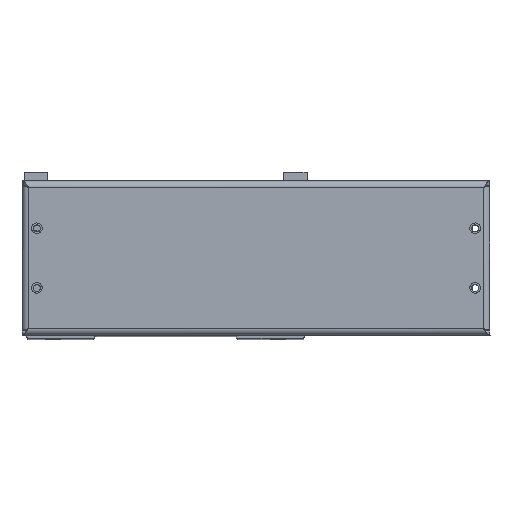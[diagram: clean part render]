
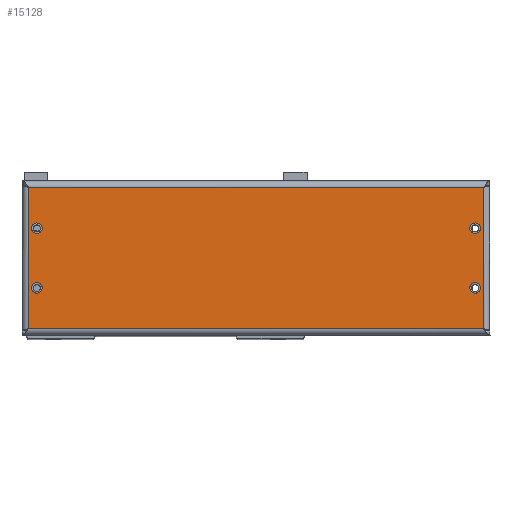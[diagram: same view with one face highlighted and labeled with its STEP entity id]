
A CAD part, top view. The second image highlights one B-rep face of the part: STEP entity #15128.
In plain terms, the highlighted planar face has unit normal (0, 0, 1) as drawn and (0, 0, -1) by its records, which use the part's own axes.
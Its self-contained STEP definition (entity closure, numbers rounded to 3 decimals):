
#118 = EDGE_CURVE ( 'NONE', #9725, #5809, #12663, .T. ) ;
#218 = VERTEX_POINT ( 'NONE', #23179 ) ;
#355 = VERTEX_POINT ( 'NONE', #27364 ) ;
#374 = EDGE_CURVE ( 'NONE', #5809, #9725, #19638, .T. ) ;
#459 = CARTESIAN_POINT ( 'NONE',  ( 2817.591, 251.134, -52. ) ) ;
#593 = CIRCLE ( 'NONE', #2744, 2.5 ) ;
#697 = EDGE_LOOP ( 'NONE', ( #7285, #3415, #16322, #4812 ) ) ;
#796 = CARTESIAN_POINT ( 'NONE',  ( 2817.591, 279.134, -52. ) ) ;
#974 = EDGE_CURVE ( 'NONE', #355, #3791, #25250, .T. ) ;
#1818 = CARTESIAN_POINT ( 'NONE',  ( 2920.591, 265.134, -52. ) ) ;
#1877 = CARTESIAN_POINT ( 'NONE',  ( 3023.591, 251.134, -52. ) ) ;
#2186 = CARTESIAN_POINT ( 'NONE',  ( 2817.591, 276.634, -52. ) ) ;
#2227 = CARTESIAN_POINT ( 'NONE',  ( 3028.237, 231.884, -52. ) ) ;
#2744 = AXIS2_PLACEMENT_3D ( 'NONE', #29883, #11712, #19134 ) ;
#2917 = ORIENTED_EDGE ( 'NONE', *, *, #374, .F. ) ;
#3007 = CARTESIAN_POINT ( 'NONE',  ( 2813.591, 231.884, -52. ) ) ;
#3415 = ORIENTED_EDGE ( 'NONE', *, *, #21630, .T. ) ;
#3479 = DIRECTION ( 'NONE',  ( 0., 0., -1. ) ) ;
#3515 = VERTEX_POINT ( 'NONE', #23266 ) ;
#3547 = EDGE_LOOP ( 'NONE', ( #7815, #10035 ) ) ;
#3773 = CIRCLE ( 'NONE', #19288, 2.5 ) ;
#3791 = VERTEX_POINT ( 'NONE', #3007 ) ;
#3862 = CARTESIAN_POINT ( 'NONE',  ( 2813.591, 298.384, -52. ) ) ;
#4150 = DIRECTION ( 'NONE',  ( 0., 0., -1. ) ) ;
#4812 = ORIENTED_EDGE ( 'NONE', *, *, #32247, .T. ) ;
#5129 = VERTEX_POINT ( 'NONE', #16174 ) ;
#5545 = DIRECTION ( 'NONE',  ( 0., 0., -1. ) ) ;
#5809 = VERTEX_POINT ( 'NONE', #22411 ) ;
#6056 = CARTESIAN_POINT ( 'NONE',  ( 3023.591, 276.634, -52. ) ) ;
#7285 = ORIENTED_EDGE ( 'NONE', *, *, #14681, .T. ) ;
#7303 = EDGE_CURVE ( 'NONE', #5129, #21067, #23047, .T. ) ;
#7627 = VERTEX_POINT ( 'NONE', #3862 ) ;
#7815 = ORIENTED_EDGE ( 'NONE', *, *, #33209, .F. ) ;
#8118 = CARTESIAN_POINT ( 'NONE',  ( 3023.591, 253.634, -52. ) ) ;
#8445 = EDGE_CURVE ( 'NONE', #21067, #5129, #3773, .T. ) ;
#8754 = VERTEX_POINT ( 'NONE', #2186 ) ;
#8773 = VERTEX_POINT ( 'NONE', #25031 ) ;
#9117 = AXIS2_PLACEMENT_3D ( 'NONE', #1818, #22166, #22817 ) ;
#9396 = AXIS2_PLACEMENT_3D ( 'NONE', #12029, #4150, #14412 ) ;
#9614 = VECTOR ( 'NONE', #16478, 1000. ) ;
#9725 = VERTEX_POINT ( 'NONE', #6056 ) ;
#10009 = FACE_BOUND ( 'NONE', #25976, .T. ) ;
#10035 = ORIENTED_EDGE ( 'NONE', *, *, #30195, .F. ) ;
#10105 = CIRCLE ( 'NONE', #12770, 2.5 ) ;
#10435 = CARTESIAN_POINT ( 'NONE',  ( 2817.591, 279.134, -52. ) ) ;
#10701 = DIRECTION ( 'NONE',  ( 0., 0., -1. ) ) ;
#10760 = CARTESIAN_POINT ( 'NONE',  ( 2817.591, 248.634, -52. ) ) ;
#10877 = CARTESIAN_POINT ( 'NONE',  ( 3027.591, 299.031, -52. ) ) ;
#11712 = DIRECTION ( 'NONE',  ( 0., 0., -1. ) ) ;
#12029 = CARTESIAN_POINT ( 'NONE',  ( 3023.591, 279.134, -52. ) ) ;
#12469 = DIRECTION ( 'NONE',  ( -1., 0., 0. ) ) ;
#12547 = FACE_BOUND ( 'NONE', #18029, .T. ) ;
#12663 = CIRCLE ( 'NONE', #31475, 2.5 ) ;
#12770 = AXIS2_PLACEMENT_3D ( 'NONE', #10435, #28454, #15830 ) ;
#13099 = CARTESIAN_POINT ( 'NONE',  ( 3023.591, 251.134, -52. ) ) ;
#13269 = DIRECTION ( 'NONE',  ( 0., -1., 0. ) ) ;
#14412 = DIRECTION ( 'NONE',  ( 0., -1., 0. ) ) ;
#14681 = EDGE_CURVE ( 'NONE', #7627, #8773, #31950, .T. ) ;
#14830 = CIRCLE ( 'NONE', #30418, 2.5 ) ;
#15113 = DIRECTION ( 'NONE',  ( 0., -1., 0. ) ) ;
#15128 = ADVANCED_FACE ( 'NONE', ( #18391, #10009, #29889, #12547, #19645 ), #20310, .T. ) ;
#15830 = DIRECTION ( 'NONE',  ( 0., -1., 0. ) ) ;
#16174 = CARTESIAN_POINT ( 'NONE',  ( 3023.591, 248.634, -52. ) ) ;
#16322 = ORIENTED_EDGE ( 'NONE', *, *, #974, .T. ) ;
#16478 = DIRECTION ( 'NONE',  ( 1., 0., 0. ) ) ;
#16560 = VECTOR ( 'NONE', #17879, 1000. ) ;
#17355 = DIRECTION ( 'NONE',  ( 0., 0., -1. ) ) ;
#17429 = ORIENTED_EDGE ( 'NONE', *, *, #8445, .F. ) ;
#17879 = DIRECTION ( 'NONE',  ( 0., 1., 0. ) ) ;
#18029 = EDGE_LOOP ( 'NONE', ( #26242, #17429 ) ) ;
#18040 = EDGE_CURVE ( 'NONE', #218, #24884, #24437, .T. ) ;
#18391 = FACE_BOUND ( 'NONE', #3547, .T. ) ;
#18473 = ORIENTED_EDGE ( 'NONE', *, *, #118, .F. ) ;
#19075 = DIRECTION ( 'NONE',  ( 0., -1., 0. ) ) ;
#19134 = DIRECTION ( 'NONE',  ( 0., -1., 0. ) ) ;
#19288 = AXIS2_PLACEMENT_3D ( 'NONE', #13099, #5545, #13269 ) ;
#19638 = CIRCLE ( 'NONE', #9396, 2.5 ) ;
#19645 = FACE_OUTER_BOUND ( 'NONE', #697, .T. ) ;
#20310 = PLANE ( 'NONE',  #9117 ) ;
#20423 = LINE ( 'NONE', #30674, #16560 ) ;
#20652 = VECTOR ( 'NONE', #12469, 1000. ) ;
#21067 = VERTEX_POINT ( 'NONE', #8118 ) ;
#21173 = DIRECTION ( 'NONE',  ( 0., -1., 0. ) ) ;
#21607 = DIRECTION ( 'NONE',  ( 0., 0., -1. ) ) ;
#21630 = EDGE_CURVE ( 'NONE', #8773, #355, #23679, .T. ) ;
#22094 = ORIENTED_EDGE ( 'NONE', *, *, #18040, .F. ) ;
#22166 = DIRECTION ( 'NONE',  ( 0., 0., -1. ) ) ;
#22411 = CARTESIAN_POINT ( 'NONE',  ( 3023.591, 281.634, -52. ) ) ;
#22817 = DIRECTION ( 'NONE',  ( 0., -1., 0. ) ) ;
#23047 = CIRCLE ( 'NONE', #27353, 2.5 ) ;
#23179 = CARTESIAN_POINT ( 'NONE',  ( 2817.591, 253.634, -52. ) ) ;
#23266 = CARTESIAN_POINT ( 'NONE',  ( 2817.591, 281.634, -52. ) ) ;
#23679 = LINE ( 'NONE', #10877, #27912 ) ;
#23925 = EDGE_CURVE ( 'NONE', #24884, #218, #593, .T. ) ;
#24437 = CIRCLE ( 'NONE', #26602, 2.5 ) ;
#24534 = CARTESIAN_POINT ( 'NONE',  ( 3023.591, 279.134, -52. ) ) ;
#24884 = VERTEX_POINT ( 'NONE', #10760 ) ;
#25031 = CARTESIAN_POINT ( 'NONE',  ( 3027.591, 298.384, -52. ) ) ;
#25250 = LINE ( 'NONE', #2227, #20652 ) ;
#25929 = EDGE_LOOP ( 'NONE', ( #18473, #2917 ) ) ;
#25976 = EDGE_LOOP ( 'NONE', ( #29724, #22094 ) ) ;
#26242 = ORIENTED_EDGE ( 'NONE', *, *, #7303, .F. ) ;
#26602 = AXIS2_PLACEMENT_3D ( 'NONE', #459, #21607, #19075 ) ;
#27353 = AXIS2_PLACEMENT_3D ( 'NONE', #1877, #17355, #30455 ) ;
#27364 = CARTESIAN_POINT ( 'NONE',  ( 3027.591, 231.884, -52. ) ) ;
#27912 = VECTOR ( 'NONE', #21173, 1000. ) ;
#28454 = DIRECTION ( 'NONE',  ( 0., 0., -1. ) ) ;
#29724 = ORIENTED_EDGE ( 'NONE', *, *, #23925, .F. ) ;
#29883 = CARTESIAN_POINT ( 'NONE',  ( 2817.591, 251.134, -52. ) ) ;
#29889 = FACE_BOUND ( 'NONE', #25929, .T. ) ;
#30195 = EDGE_CURVE ( 'NONE', #3515, #8754, #14830, .T. ) ;
#30418 = AXIS2_PLACEMENT_3D ( 'NONE', #796, #3479, #31896 ) ;
#30455 = DIRECTION ( 'NONE',  ( 0., -1., 0. ) ) ;
#30674 = CARTESIAN_POINT ( 'NONE',  ( 2813.591, 231.238, -52. ) ) ;
#31475 = AXIS2_PLACEMENT_3D ( 'NONE', #24534, #10701, #15113 ) ;
#31896 = DIRECTION ( 'NONE',  ( 0., -1., 0. ) ) ;
#31950 = LINE ( 'NONE', #32447, #9614 ) ;
#32247 = EDGE_CURVE ( 'NONE', #3791, #7627, #20423, .T. ) ;
#32447 = CARTESIAN_POINT ( 'NONE',  ( 2812.944, 298.384, -52. ) ) ;
#33209 = EDGE_CURVE ( 'NONE', #8754, #3515, #10105, .T. ) ;
